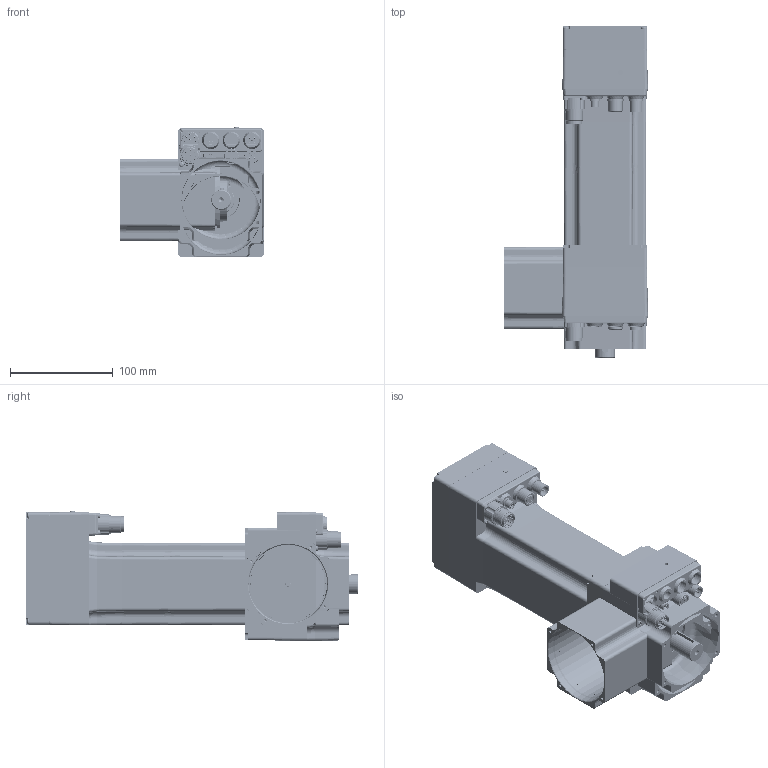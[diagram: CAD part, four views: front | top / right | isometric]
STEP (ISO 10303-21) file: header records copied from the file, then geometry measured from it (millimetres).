
FILE_DESCRIPTION( ( 'Unknown' ), '1' );
FILE_NAME( 'C:/Users/dotti/Desktop/Q0B221/Q0B221 2,8.stp', 'Unknown', ( 'Unknown' ), ( 'Unknown' ), 'PSStep 14.0', 'Unknown', ' ' );
FILE_SCHEMA( ( 'AUTOMOTIVE_DESIGN { 1 0 10303 214 1 1 1 1 }' ) );
Length unit declared in the file: millimetre
Products named in the file (50): T00246; Assem1; 005117000974; N54236; CN M23 PAN-POT BEGA 906 4+5p; VECST-8112 M  2,5 x 12; G00030_profibus; G00029_Profibus; N33250; LI-PIA   6x6 x 30; LI-PIA   5x5 x 18; CUSC_20_42_12_6004_ZZ; CUSC_15_32_9_6002_ZZ; a-ela  20; Anello-elastico-chiuso  42; N09284; Anello-elastico-chiuso  32; 003155001098; Vite a brugola testa cil 8,8 -  M  3 x 25; Vite a brugola testa cil 8,8 -  M  3 x 25-oa0; Vite a brugola testa cil 8,8 -  M  3 x 25-oa1; Vite a brugola testa cil 8,8 -  M  3 x 25-oa2; Vite a brugola testa cil 8,8 -  M  3 x 40; Vite a brugola testa cil 8,8 -  M  3 x 40-oa3; Vite a brugola testa cil 8,8 -  M  3 x 40-oa4; Vite a brugola testa cil 8,8 -  M  3 x 40-oa5; Vite a brugola testa cil 8,8 -  M  3 x 40-oa6; Vite a brugola testa cil 8,8 -  M  3 x 40-oa7; Vite a brugola testa cil 8,8 -  M  3 x 40-oa8; Vite a brugola testa cil 8,8 -  M  3 x 40-oa9; N35217; VECST-8112 M  3 x 25; 003016000054; N01399; N54239
Bounding box: 139.5 x 322.64 x 126.21 mm (x, y, z)
Volume: 1339423.9 mm3; surface area: 649321.5 mm2
Topology: 112 solids, 116 shells, 7705 faces, 20863 edges, 13669 vertices
Faces by surface type: plane 4186, cylinder 2627, cone 308, bspline 283, torus 233, sphere 68
Full cylindrical faces by diameter (mm): 1 x39, 1.5 x72, 2 x4, 2.4 x24, 2.459 x62, 2.5 x17, 2.7 x12, 3 x29, 3.242 x4, 3.5 x48, 4 x5, 4.2 x2, 4.917 x2, 5 x11, 5.5 x26, 6 x34, 8 x17, 8.5 x9, 8.75 x3, 9 x6, 10 x3, 11 x15, 11.9 x6, 12 x11, 14 x8, 14.4 x3, 14.5 x3, 15 x4, 15.001 x2, 15.6 x3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
Entity records: 110456 total; most frequent: CARTESIAN_POINT 28027, DIRECTION 13985, ORIENTED_EDGE 13948, EDGE_CURVE 6974, AXIS2_PLACEMENT_3D 5054, VERTEX_POINT 4791, LINE 3877, VECTOR 3877
